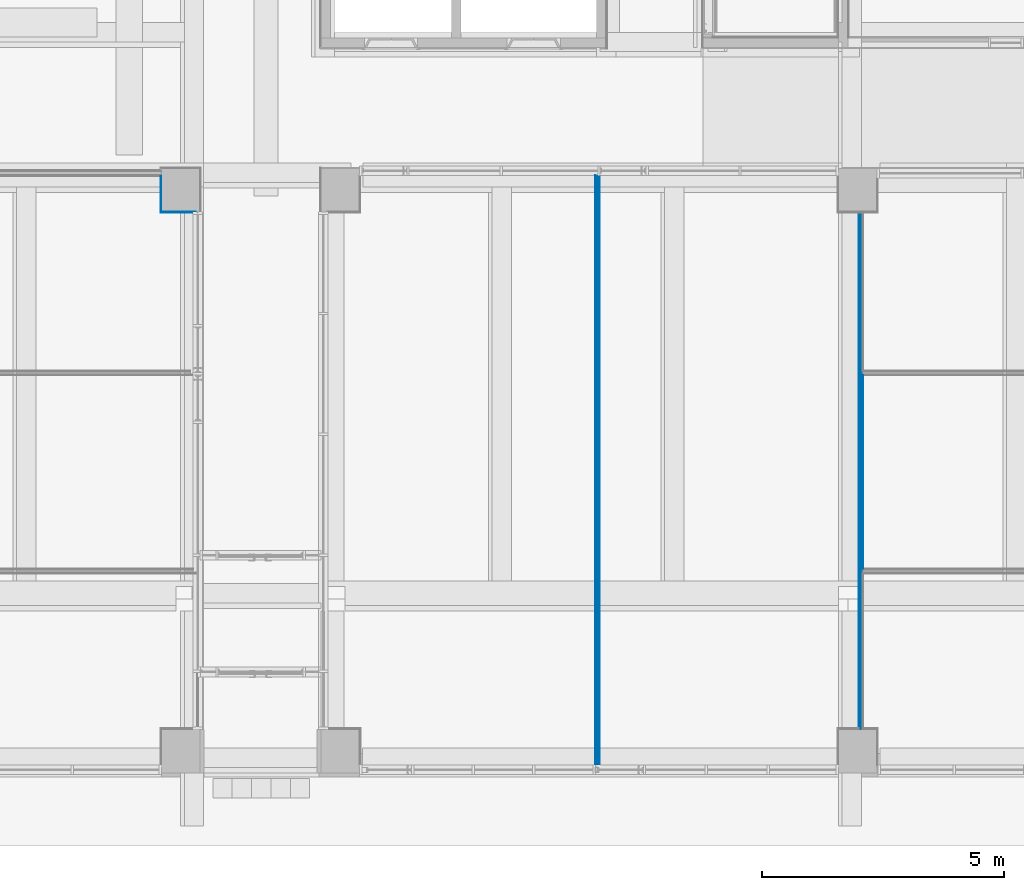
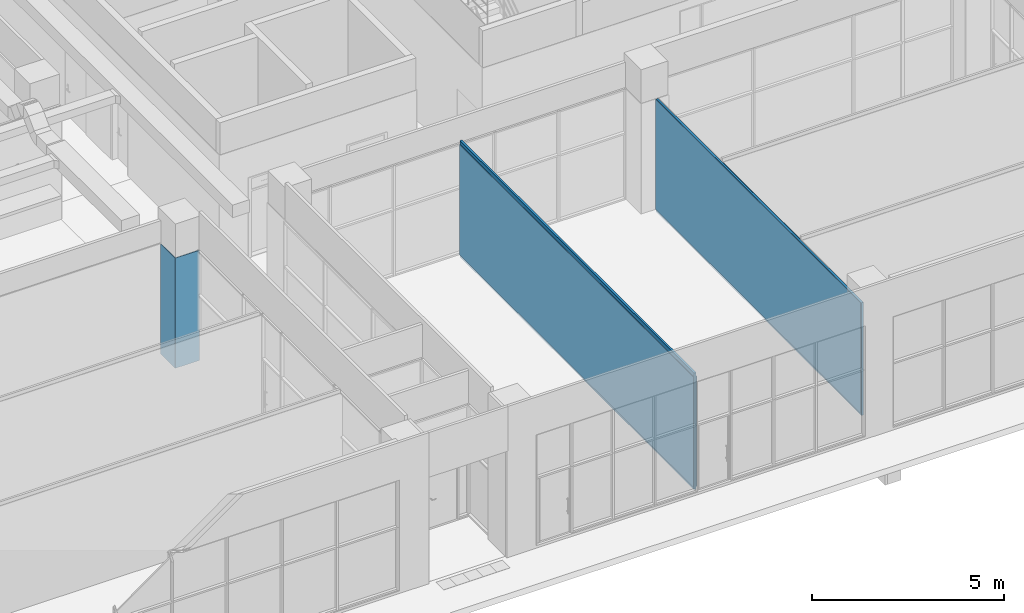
# One storey, part 36 of 100: 8 walls.
"""IFC2X3 building model written with IfcOpenShell, lengths in millimetres."""

from ifc_helpers import new_model, entity, si_unit, converted_unit, derived_unit, direction, frame, frame_2d, origin, place, context, subcontext, project, spatial, rectangle, extrude, material, layer, layer_set, layer_usage, type_object, element, save


model = new_model("IFC2X3")

# Units and contexts
model_context = context("Model", 3, precision=0.01, world=origin(), true_north=direction((6.123031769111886e-17, 1.0)))
body_context = subcontext(model_context, "Body", "Model", "MODEL_VIEW")
ifc_project = project(units=[si_unit("LENGTHUNIT", "METRE", prefix="MILLI"), si_unit("AREAUNIT", "SQUARE_METRE"), si_unit("VOLUMEUNIT", "CUBIC_METRE"), converted_unit("PLANEANGLEUNIT", "DEGREE", entity("IfcRatioMeasure", 0.017453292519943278), si_unit("PLANEANGLEUNIT", "RADIAN"), dimensions=[0, 0, 0, 0, 0, 0, 0]), si_unit("MASSUNIT", "GRAM", prefix="KILO"), derived_unit("MASSDENSITYUNIT", [(si_unit("MASSUNIT", "GRAM", prefix="KILO"), 1), (si_unit("LENGTHUNIT", "METRE"), -3)]), derived_unit("MOMENTOFINERTIAUNIT", [(si_unit("LENGTHUNIT", "METRE"), 4)]), si_unit("TIMEUNIT", "SECOND"), si_unit("FREQUENCYUNIT", "HERTZ"), si_unit("THERMODYNAMICTEMPERATUREUNIT", "DEGREE_CELSIUS"), derived_unit("THERMALTRANSMITTANCEUNIT", [(si_unit("MASSUNIT", "GRAM", prefix="KILO"), 1), (si_unit("THERMODYNAMICTEMPERATUREUNIT", "KELVIN"), -1), (si_unit("TIMEUNIT", "SECOND"), -3)]), derived_unit("VOLUMETRICFLOWRATEUNIT", [(si_unit("LENGTHUNIT", "METRE"), 3), (si_unit("TIMEUNIT", "SECOND"), -1)]), derived_unit("MASSFLOWRATEUNIT", [(si_unit("MASSUNIT", "GRAM", prefix="KILO"), 1), (si_unit("TIMEUNIT", "SECOND"), -1)]), derived_unit("ROTATIONALFREQUENCYUNIT", [(si_unit("TIMEUNIT", "SECOND"), -1)]), si_unit("ELECTRICCURRENTUNIT", "AMPERE"), si_unit("ELECTRICVOLTAGEUNIT", "VOLT"), si_unit("POWERUNIT", "WATT"), si_unit("FORCEUNIT", "NEWTON", prefix="KILO"), si_unit("ILLUMINANCEUNIT", "LUX"), si_unit("LUMINOUSFLUXUNIT", "LUMEN"), si_unit("LUMINOUSINTENSITYUNIT", "CANDELA"), derived_unit("USERDEFINED", [(si_unit("MASSUNIT", "GRAM", prefix="KILO"), -1), (si_unit("LENGTHUNIT", "METRE"), -2), (si_unit("TIMEUNIT", "SECOND"), 3), (si_unit("LUMINOUSFLUXUNIT", "LUMEN"), 1)]), derived_unit("SOUNDPOWERUNIT", [(si_unit("MASSUNIT", "GRAM", prefix="KILO"), 1), (si_unit("LENGTHUNIT", "METRE"), 2), (si_unit("TIMEUNIT", "SECOND"), -3)]), derived_unit("SOUNDPRESSUREUNIT", [(si_unit("MASSUNIT", "GRAM", prefix="KILO"), 1), (si_unit("LENGTHUNIT", "METRE"), -1), (si_unit("TIMEUNIT", "SECOND"), -2)]), derived_unit("LINEARVELOCITYUNIT", [(si_unit("LENGTHUNIT", "METRE"), 1), (si_unit("TIMEUNIT", "SECOND"), -1)]), si_unit("PRESSUREUNIT", "PASCAL"), derived_unit("USERDEFINED", [(si_unit("LENGTHUNIT", "METRE"), -2), (si_unit("MASSUNIT", "GRAM", prefix="KILO"), 1), (si_unit("TIMEUNIT", "SECOND"), -2)]), derived_unit("LINEARFORCEUNIT", [(si_unit("MASSUNIT", "GRAM", prefix="KILO"), 1), (si_unit("LENGTHUNIT", "METRE"), 1), (si_unit("TIMEUNIT", "SECOND"), -2), (si_unit("LENGTHUNIT", "METRE"), -1)]), derived_unit("PLANARFORCEUNIT", [(si_unit("MASSUNIT", "GRAM", prefix="KILO"), 1), (si_unit("LENGTHUNIT", "METRE"), 1), (si_unit("TIMEUNIT", "SECOND"), -2), (si_unit("LENGTHUNIT", "METRE"), -2)])], contexts=[model_context])

# Site, building, storey
site_placement = place(None, frame((-14167.972527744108, -657.2125860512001, 0.0)))
site = spatial("IfcSite", under=ifc_project, at=site_placement, Name="Default", CompositionType="ELEMENT")
building_placement = place(site_placement, origin())
building = spatial("IfcBuilding", under=site, at=building_placement, Name="Sample Building", CompositionType="ELEMENT")
storey_placement = place(building_placement, origin())
storey = spatial("IfcBuildingStorey", under=building, at=storey_placement, Name="지상 1층", CompositionType="ELEMENT", Elevation=0.0)

# Walls
ifc_material_1 = material(Name="KBIMS-DRY WALL")
ifc_layer_1 = layer(ifc_material_1, 12.5)
ifc_material_2 = material(Name="KBIMS-경량철골벽틀")
ifc_layer_2 = layer(ifc_material_2, 50.0)
ifc_layer_set_1 = layer_set([ifc_layer_1, ifc_layer_2], Name="기본 벽:WA731-DRY WALL(C50, GS12.5mm) (1겹한면, GW50mm) 62.5mm")
ifc_layer_usage_1 = layer_usage(ifc_layer_set_1, "AXIS2", "NEGATIVE", 31.250000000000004)
wall_type_1 = type_object("IfcWallType", Name="기본 벽:WA731-DRY WALL(C50, GS12.5mm) (1겹한면, GW50mm) 62.5mm", PredefinedType="STANDARD", material=ifc_layer_set_1)
wall_1_placement = place(storey_placement, frame((35786.71814464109, 12912.212586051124, 0.0), z_axis=(0.0, 0.0, 1.0), x_axis=(0.0, -1.0, 0.0)))
element("IfcWallStandardCase", 1, at=wall_1_placement, inside=storey, type_object=wall_type_1, material=ifc_layer_usage_1, Name="기본 벽:WA731-DRY WALL(C50, GS12.5mm) (1겹한면, GW50mm) 62.5mm", ObjectType="기본 벽:WA731-DRY WALL(C50, GS12.5mm) (1겹한면, GW50mm) 62.5mm", context=body_context, shape_type="SweptSolid", body=[
    extrude(rectangle(XDim=12192.5002909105, YDim=62.499999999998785, at=frame_2d((6096.25014545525, 2.0943247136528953e-12), x_axis=(-1.0, 0.0))), origin(), (0.0, 0.0, 1.0), 3700.000000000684),
])
ifc_layer_usage_2 = layer_usage(ifc_layer_set_1, "AXIS2", "NEGATIVE", 31.250000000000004)
wall_2_placement = place(storey_placement, frame((41236.72249113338, 12140.19489124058, 0.0), z_axis=(0.0, 0.0, 1.0), x_axis=(0.0, -1.0, 0.0)))
element("IfcWallStandardCase", 2, at=wall_2_placement, inside=storey, type_object=wall_type_1, material=ifc_layer_usage_2, Name="기본 벽:WA731-DRY WALL(C50, GS12.5mm) (1겹한면, GW50mm) 62.5mm", ObjectType="기본 벽:WA731-DRY WALL(C50, GS12.5mm) (1겹한면, GW50mm) 62.5mm", context=body_context, shape_type="SweptSolid", body=[
    extrude(rectangle(XDim=10682.983005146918, YDim=62.50000000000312, at=frame_2d((5341.491502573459, -4.385825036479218e-12), x_axis=(-1.0, 0.0))), origin(), (0.0, 0.0, 1.0), 3580.0000000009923),
])
ifc_material_3 = material(Name="WA611-수성페인트 (내부) 벽 (3회)")
ifc_layer_3 = layer(ifc_material_3, 1.0)
ifc_material_4 = material(Name="WA551-시멘트모르타르 (내부) 벽 18mm")
ifc_layer_4 = layer(ifc_material_4, 16.0)
ifc_material_5 = material(Name="WA555-콘크리트면정리 벽 (내부)")
ifc_layer_5 = layer(ifc_material_5, 1.0)
ifc_layer_set_2 = layer_set([ifc_layer_3, ifc_layer_4, ifc_layer_5], Name="기본 벽:A1-32-06A-콘크리트면정리, 시멘트모르타르(미장용), 수성페인트(내부) (18mm)")
ifc_layer_usage_3 = layer_usage(ifc_layer_set_2, "AXIS2", "POSITIVE", -9.000000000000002)
wall_type_2 = type_object("IfcWallType", Name="기본 벽:A1-32-06A-콘크리트면정리, 시멘트모르타르(미장용), 수성페인트(내부) (18mm)", PredefinedType="STANDARD", material=ifc_layer_set_2)
wall_3_placement = place(storey_placement, frame((26759.97249113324, 12894.212586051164, 80.0), z_axis=(0.0, 0.0, 1.0), x_axis=(0.0, -1.0, 0.0)))
element("IfcWallStandardCase", 3, at=wall_3_placement, inside=storey, type_object=wall_type_2, material=ifc_layer_usage_3, Name="기본 벽:A1-32-06A-콘크리트면정리, 시멘트모르타르(미장용), 수성페인트(내부) (18mm)", ObjectType="기본 벽:A1-32-06A-콘크리트면정리, 시멘트모르타르(미장용), 수성페인트(내부) (18mm)", context=body_context, shape_type="SweptSolid", body=[
    extrude(rectangle(XDim=755.00027806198, YDim=18.00000000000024, at=frame_2d((377.50013903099, -2.1662671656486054e-12), x_axis=(-1.0, 0.0))), origin(), (0.0, 0.0, 1.0), 3500.0000000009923),
])
ifc_layer_usage_4 = layer_usage(ifc_layer_set_2, "AXIS2", "POSITIVE", -9.000000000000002)
wall_4_placement = place(storey_placement, frame((26768.97249113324, 12148.212307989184, 80.0)))
element("IfcWallStandardCase", 4, at=wall_4_placement, inside=storey, type_object=wall_type_2, material=ifc_layer_usage_4, Name="기본 벽:A1-32-06A-콘크리트면정리, 시멘트모르타르(미장용), 수성페인트(내부) (18mm)", ObjectType="기본 벽:A1-32-06A-콘크리트면정리, 시멘트모르타르(미장용), 수성페인트(내부) (18mm)", context=body_context, shape_type="SweptSolid", body=[
    extrude(rectangle(XDim=708.9826506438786, YDim=18.00000000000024, at=frame_2d((354.4913253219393, -1.7763568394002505e-15), x_axis=(-1.0, 0.0))), origin(), (0.0, 0.0, 1.0), 3500.0000000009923),
])
ifc_layer_usage_5 = layer_usage(ifc_layer_set_2, "AXIS2", "POSITIVE", -9.000000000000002)
wall_5_placement = place(storey_placement, frame((35746.4681446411, 12912.212586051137, 80.0), z_axis=(0.0, 0.0, 1.0), x_axis=(0.0, -1.0, 0.0)))
element("IfcWallStandardCase", 5, at=wall_5_placement, inside=storey, type_object=wall_type_2, material=ifc_layer_usage_5, Name="기본 벽:A1-32-06A-콘크리트면정리, 시멘트모르타르(미장용), 수성페인트(내부) (18mm)", ObjectType="기본 벽:A1-32-06A-콘크리트면정리, 시멘트모르타르(미장용), 수성페인트(내부) (18mm)", context=body_context, shape_type="SweptSolid", body=[
    extrude(rectangle(XDim=12192.500290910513, YDim=18.00000000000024, at=frame_2d((6096.250145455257, -2.227551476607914e-12), x_axis=(-1.0, 0.0))), origin(), (0.0, 0.0, 1.0), 3500.0000000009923),
])
ifc_layer_usage_6 = layer_usage(ifc_layer_set_2, "AXIS2", "POSITIVE", -9.000000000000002)
wall_6_placement = place(storey_placement, frame((41196.4724911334, 12140.19489124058, 80.0), z_axis=(0.0, 0.0, 1.0), x_axis=(0.0, -1.0, 0.0)))
element("IfcWallStandardCase", 6, at=wall_6_placement, inside=storey, type_object=wall_type_2, material=ifc_layer_usage_6, Name="기본 벽:A1-32-06A-콘크리트면정리, 시멘트모르타르(미장용), 수성페인트(내부) (18mm)", ObjectType="기본 벽:A1-32-06A-콘크리트면정리, 시멘트모르타르(미장용), 수성페인트(내부) (18mm)", context=body_context, shape_type="SweptSolid", body=[
    extrude(rectangle(XDim=10682.982583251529, YDim=17.999999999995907, at=frame_2d((5341.4912916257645, 8.881784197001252e-16), x_axis=(-1.0, 0.0))), origin(), (0.0, 0.0, 1.0), 3500.0000000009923),
])
ifc_layer_usage_7 = layer_usage(ifc_layer_set_2, "AXIS2", "POSITIVE", -9.000000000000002)
wall_7_placement = place(storey_placement, frame((35825.96814464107, 719.7122951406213, 80.0), z_axis=(0.0, 0.0, 1.0), x_axis=(0.0, 1.0, 0.0)))
element("IfcWallStandardCase", 7, at=wall_7_placement, inside=storey, type_object=wall_type_2, material=ifc_layer_usage_7, Name="기본 벽:A1-32-06A-콘크리트면정리, 시멘트모르타르(미장용), 수성페인트(내부) (18mm)", ObjectType="기본 벽:A1-32-06A-콘크리트면정리, 시멘트모르타르(미장용), 수성페인트(내부) (18mm)", context=body_context, shape_type="SweptSolid", body=[
    extrude(rectangle(XDim=12192.500290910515, YDim=18.00000000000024, at=frame_2d((6096.250145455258, -2.227551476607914e-12), x_axis=(-1.0, 0.0))), origin(), (0.0, 0.0, 1.0), 3500.0000000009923),
])
ifc_layer_usage_8 = layer_usage(ifc_layer_set_2, "AXIS2", "POSITIVE", -9.000000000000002)
wall_8_placement = place(storey_placement, frame((41276.97249113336, 4774.177617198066, 80.0), z_axis=(0.0, 0.0, 1.0), x_axis=(0.0, 1.0, 0.0)))
element("IfcWallStandardCase", 8, at=wall_8_placement, inside=storey, type_object=wall_type_2, material=ifc_layer_usage_8, Name="기본 벽:A1-32-06A-콘크리트면정리, 시멘트모르타르(미장용), 수성페인트(내부) (18mm)", ObjectType="기본 벽:A1-32-06A-콘크리트면정리, 시멘트모르타르(미장용), 수성페인트(내부) (18mm)", context=body_context, shape_type="SweptSolid", body=[
    extrude(rectangle(XDim=4002.500002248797, YDim=17.999999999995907, at=frame_2d((2001.2500011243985, 2.220446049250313e-14), x_axis=(-1.0, 0.0))), origin(), (0.0, 0.0, 1.0), 3500.0000000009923),
])

save(model, "model.ifc")
